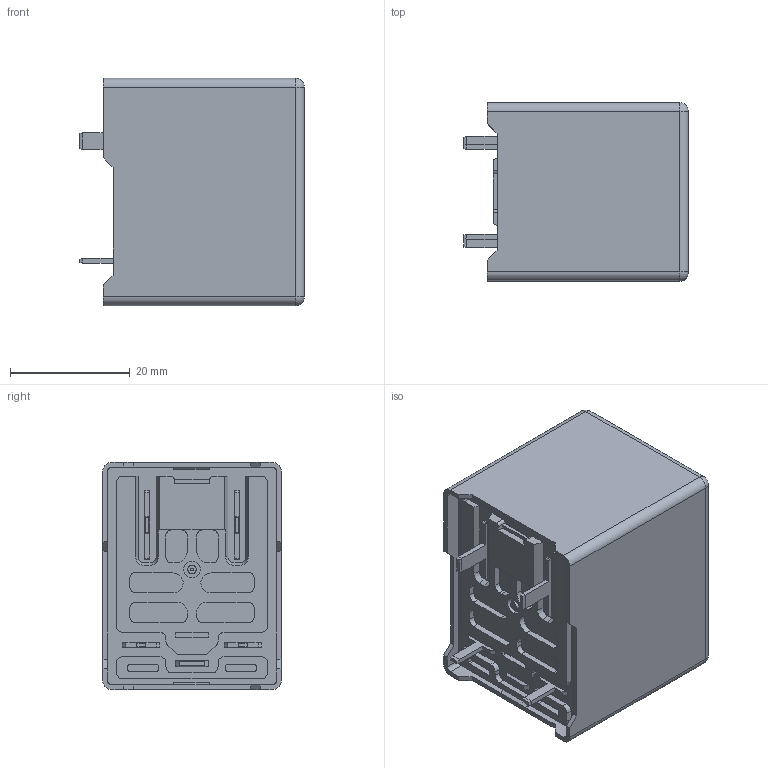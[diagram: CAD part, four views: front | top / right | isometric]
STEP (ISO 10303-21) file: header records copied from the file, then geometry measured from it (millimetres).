
FILE_DESCRIPTION (( 'STEP AP203' ), '1' );
FILE_NAME ('^XXX Product ASSY£¨PCB£©.STEP', '2023-12-13T06:00:50', ( '' ), ( '' ), 'SwSTEP 2.0', 'SolidWorks 2014', '' );
FILE_SCHEMA (( 'CONFIG_CONTROL_DESIGN' ));
Length unit declared in the file: millimetre
Products named in the file (1): ^XXX Product ASSY（PCB）
Bounding box: 37.6 x 29.8 x 38 mm (x, y, z)
Volume: 11744 mm3; surface area: 16872.3 mm2
Topology: 1 solids, 11 shells, 806 faces, 2169 edges, 1402 vertices
Faces by surface type: plane 648, cylinder 128, sphere 16, bspline 8, cone 4, torus 2
Entity records: 25075 total; most frequent: CARTESIAN_POINT 4700, ORIENTED_EDGE 4330, DIRECTION 4011, EDGE_CURVE 2165, LINE 1843, VECTOR 1843, VERTEX_POINT 1402, AXIS2_PLACEMENT_3D 1084
